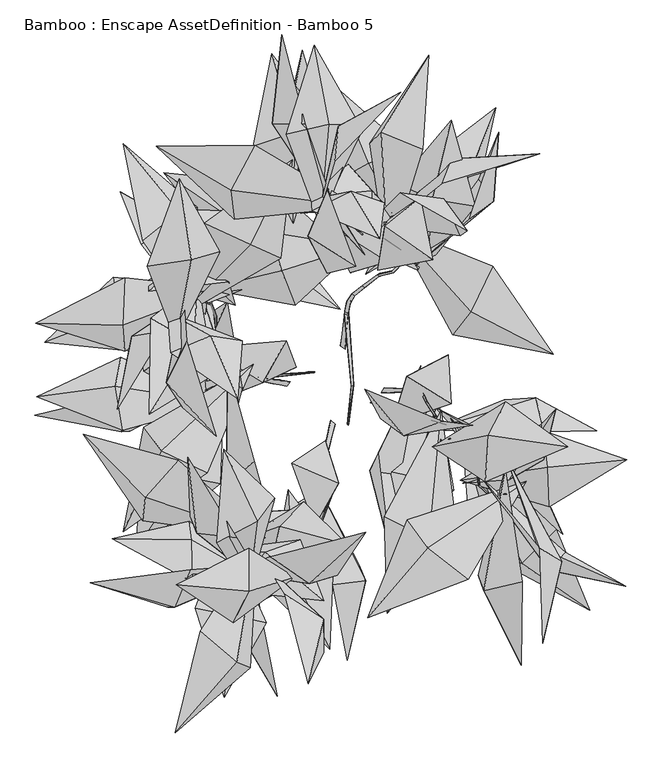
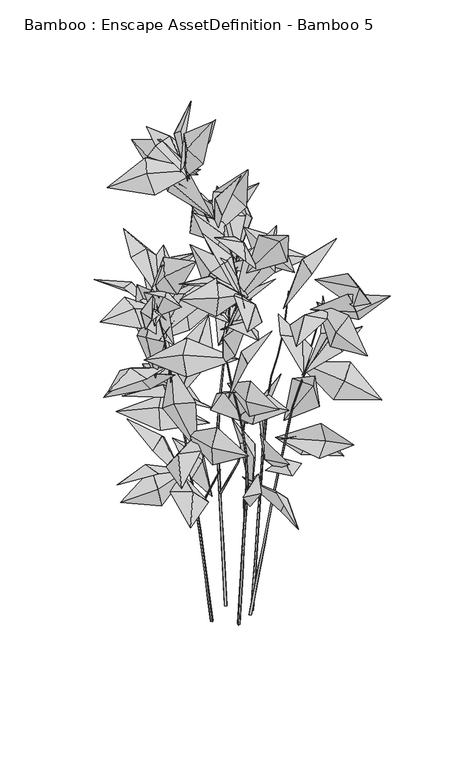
"""IFC4 building model written with IfcOpenShell, lengths in millimetres: geographic element geometry, Bamboo : Enscape AssetDefinition - Bamboo 5."""

from ifc_helpers import new_model, si_unit, origin, place, context, project, spatial, triangles, source, transform, mapped, element, save


def bamboo_enscape_assetdefinition_bamboo_5_6e08fe5f(model_context):
    return source(origin(), model_context, "Body", "Tessellation", [
        triangles([(266.7908193, -164.0697274, 1352.8652424), (265.652662, -163.7318846, 1353.1329586), (266.470381, -162.8979602, 1352.7905376), (0.9095346, 283.5432125, 1653.4577957), (0.749928, 282.3645598, 1653.7153381), (-0.1828052, 283.0290723, 1653.30359), (177.9235329, -75.2521972, 1383.7431541), (176.7161938, -75.2639925, 1383.8964878), (177.2859083, -74.221487, 1383.6319691), (-123.3851558, -289.9325572, 1639.8058674), (-123.1589978, -288.7381352, 1639.8661835), (-122.3020643, -289.4998983, 1639.4579235), (-242.5310719, 133.2183674, 1366.5162987), (-241.3386847, 133.0337947, 1366.6757366), (-242.0591349, 132.1091237, 1366.3485764), (-84.400962, 81.3364234, 699.0246288), (-212.0057912, 69.499714, 799.8626598), (-68.7226267, 38.8024144, 517.4644538), (-180.4961411, -8.7711835, 663.156542), (-121.5009776, 14.0428088, 705.6203745), (-312.2748708, -86.7501009, 698.4543875), (-324.3235903, -252.8266826, 648.7735537), (-182.0441753, 54.885517, 646.0732824), (-189.6951981, -147.0909581, 648.4611454), (-246.7223677, -135.8681239, 705.1403893), (71.8163922, -199.7884774, 1309.0647182), (76.5049687, -353.7326963, 1231.325568), (163.1109741, -30.0788031, 1263.6638557), (143.8283303, -235.2831676, 1294.4875557), (188.5152374, -225.9436941, 1228.0613777), (-347.1420012, -64.3380832, 707.4728777), (-342.2611582, -3.6783184, 755.3053505), (-171.5135136, 22.6691218, 681.6618078), (-484.9884928, -38.0339748, 682.9706669), (-334.0603506, -63.1798236, 632.1497137), (-334.4742788, 179.4281104, 858.1898409), (-311.8344907, 32.6620007, 801.5162653), (-209.5995609, -26.0298451, 662.3213459), (-252.3877195, 74.796352, 820.019351), (-215.7759645, 120.7445376, 774.6008297), (55.9018295, -121.8845207, 683.1431128), (157.5883098, -14.4642686, 578.7788435), (83.5167136, -267.135275, 738.1350323), (182.8959038, -157.2517569, 691.2253956), (118.9001462, -135.6121348, 720.6835539), (-357.2259061, 8.2681738, 775.7081749), (-482.2405864, -8.0397204, 739.0604845), (-345.2121408, -61.9388338, 771.743446), (-189.6489437, -18.6016682, 709.4351126), (-348.4491162, 54.6898122, 723.4238663), (-92.4540769, -240.5498883, 1145.9419716), (-55.0066624, -187.5860609, 963.3048637), (-156.8637719, -193.685525, 1139.9645021), (-237.1649932, -288.3409756, 1218.732514), (-210.9009895, -196.4521076, 1082.5351587), (-315.6626364, 235.0309483, 1021.7917007), (-253.0929636, 264.4129485, 976.6674202), (-213.2149471, 223.9419086, 918.1778217), (-349.2752286, 318.5102097, 872.2433435), (-195.4643772, 79.331068, 1059.5802372), (-15.0173008, -410.4838108, 1140.8854488), (-8.9834775, -255.3469684, 1113.7071659), (-81.2027015, -156.6123882, 980.4715485), (-110.8659618, -319.3623742, 1059.5202118), (-75.1428334, -289.5764925, 1116.6080063), (-350.6841542, 125.0731705, 1116.792152), (-191.6702229, 165.5226547, 1036.9736956), (-359.9774823, 182.2192191, 1074.937512), (-469.1592628, 78.2532904, 1084.2452288), (-321.6296413, 63.7951204, 1097.2753201), (-261.7888717, 171.3118544, 1188.3639462), (-202.3235697, 214.5267493, 1292.368063), (-260.6447918, 234.2591931, 1159.6395367), (-213.7088668, 123.2219572, 1181.4151697), (-232.0798203, 153.8901162, 1015.0115187), (313.2189629, -9.4957344, 669.9938427), (326.0953935, -63.6848664, 721.4768921), (144.1239972, -61.5823512, 748.8568342), (410.8921434, -62.2669569, 585.371755), (263.5402546, -13.0142549, 614.0215324), (297.7832226, -96.8209615, 784.9052153), (306.5736199, -114.8873188, 718.3559343), (153.8940585, -25.5153734, 733.3196285), (260.6600344, -147.5648845, 679.1209745), (356.3646578, -227.6763827, 752.5315372), (-283.905981, -94.2388335, 856.7791712), (-344.1050863, -223.6979373, 807.9638369), (-210.3257521, -129.4278012, 865.0889837), (-136.8857217, 43.4442641, 799.5777208), (-311.483749, -57.0018577, 790.3621496), (-128.3530303, -336.4400745, 1262.4225071), (-133.9860168, -184.6227243, 1162.8399954), (-150.2336533, -365.9246484, 1135.0814426), (-98.5900123, -486.0305077, 1220.0814869), (-167.7554036, -367.5933329, 1206.9085991), (-109.6211886, -282.9746607, 1296.6481796), (-161.8557455, -239.0287239, 1139.8823851), (-94.7034763, -214.6196215, 1305.0715027), (12.2204784, -243.260951, 1372.6541508), (-56.4382429, -175.5972214, 1261.9614887), (148.6669702, -87.7857935, 1326.8034611), (232.6075315, -143.5778187, 1480.8190601), (237.8195681, -69.8457094, 1497.8841522), (265.6179258, -16.3281662, 1453.4057625), (364.6337025, -88.3817056, 1553.2663822), (-154.5682724, 5.5688529, 972.097859), (-160.9278043, -18.2378017, 781.1861109), (-220.9892727, 47.9938365, 963.0170179), (-178.3817353, 142.8175544, 1065.5468061), (-231.0353165, 107.4442775, 912.9553934), (107.7208685, 24.028432, 871.3550257), (114.5483224, -5.6803361, 669.4726536), (84.5582198, -50.8649231, 855.7018387), (178.5707318, -19.687997, 992.6610661), (174.0403034, 58.3002114, 845.6115389), (-179.9465199, -149.6692437, 879.258831), (-92.8798049, -261.0102492, 881.5267159), (-134.9829399, -111.3054608, 928.3092527), (-177.4445469, 39.49996, 827.3839451), (-174.8721022, -147.8863584, 803.5790028), (-171.0306942, 167.1946456, 901.4663418), (2.1262292, 131.4758139, 809.9781034), (-147.8861676, 245.9071376, 901.1431784), (-122.7466592, 287.7621592, 836.4567198), (-289.4298808, 290.9724283, 874.0292084), (80.7152767, -250.527804, 779.370306), (62.0105363, -98.2252454, 802.7999805), (129.9182327, 41.3825077, 715.4529139), (48.965357, -126.4582786, 736.2972811), (97.387742, -133.1903895, 682.7331087), (-175.7530985, 174.8618375, 1330.6753178), (-303.7717379, 159.4722064, 1438.363512), (-166.0099069, 137.7039948, 1141.7539278), (-245.2108865, 209.7293495, 1314.1508904), (-304.3909952, 177.5713923, 1273.8562569), (-59.1091055, 236.2749131, 1199.8707293), (-67.9489638, 196.5141133, 1265.0047623), (-226.4867024, 134.4677098, 1189.1146997), (80.3281183, 212.9084069, 1200.7620266), (-62.8979731, 207.9153432, 1129.5873013), (-256.3543742, -109.8294607, 1355.784977), (-308.7049215, -168.3873054, 1336.4828121), (-117.6786183, -233.0222228, 1291.6948483), (-407.8970864, -68.4412212, 1288.1994221), (-313.0930621, -205.9476763, 1266.1017883), (-203.7580389, -273.380388, 1437.2890137), (-156.9223984, -211.8197742, 1449.5312897), (-140.1361501, -347.0652981, 1543.576276), (-157.0474816, -192.2771808, 1260.5202976), (-189.7543515, -332.0933195, 1388.9043217), (196.6155424, -68.255881, 998.4466867), (207.4462767, -209.5473657, 1089.0734224), (177.7428208, -42.6781499, 808.0508955), (251.4125065, -122.7781616, 979.6377331), (241.7558104, -182.311946, 929.257814), (164.6730336, -47.3985785, 1600.6892143), (40.5719512, 3.4355887, 1661.2804287), (213.077728, -53.8352314, 1439.0235008), (103.2492846, -70.7736279, 1577.7725899), (66.3281507, -43.5407244, 1526.5653957), (-313.3330547, 240.2111372, 1378.0106552), (-344.0879362, 394.6889174, 1331.8692856), (-254.4986554, 286.2655027, 1356.9526382), (-226.4318366, 293.7139034, 1285.9837143), (-218.65068, 102.9983007, 1290.3537964), (-345.0901643, 105.5643686, 1382.3159157), (-341.7730339, 181.0029779, 1385.4469746), (-483.6883904, 108.9749435, 1371.0965424), (-189.3138442, 164.6876402, 1284.8663406), (-341.5900146, 64.1484645, 1320.301823), (-38.613804, -213.8454319, 824.2666935), (-75.5469557, -114.634182, 951.6140076), (-33.0574004, -178.1645792, 637.6874571), (-0.7024818, -145.7949708, 832.4226637), (-22.1160215, -78.0120987, 801.8808506), (42.1512335, -301.8245094, 676.0108446), (-9.8834333, -307.5582255, 729.6382399), (-43.9805686, -132.0963429, 696.2442026), (13.2213223, -428.6017819, 630.0291309), (31.3972682, -275.1659077, 607.7918982), (-164.5822324, -318.0476289, 1581.1255829), (-118.1552698, -256.6620953, 1589.491206), (-196.2654366, -252.6976752, 1407.888628), (-24.8314308, -333.4664188, 1664.9451759), (-61.9651358, -236.1377666, 1541.8503639), (-277.6805616, 96.5360044, 1420.4753597), (-326.2089403, 61.7786373, 1313.3041397), (-354.0240303, -28.5073806, 1422.4375946), (-200.7790419, 175.4630363, 1293.4771523), (-330.4533033, 88.0611129, 1376.3677322), (-183.4262857, -219.8946992, 1432.6564476), (-229.6417969, -345.6948512, 1539.3707188), (-182.8786992, -487.1811642, 1548.3764191), (-160.5580231, -359.2142658, 1544.8456753), (-116.450223, -368.8477621, 1491.6848213), (-3.4079085, -143.385443, 686.3290375), (-53.5089477, -264.4658885, 793.8633894), (-169.3357395, -355.9482224, 788.0151272), (-63.644589, -303.5604681, 736.8573486), (-100.186908, -285.2759374, 681.2447548), (-221.5125147, -382.4736746, 1690.9412636), (-163.2481024, -431.8755283, 1662.6501125), (-130.4451809, -240.5124815, 1587.8917397), (-261.2627592, -544.277243, 1647.3120953), (-142.0949695, -440.5100667, 1585.4962463), (-109.68046, -263.248085, 1747.3081718), (-173.5480732, -286.8081113, 1567.9101105), (-47.4950161, -306.4504807, 1724.4956108), (42.7735111, -224.5300994, 1804.0172104), (-3.1837029, -293.2331188, 1661.5352097), (-262.4034418, -343.5839335, 1670.7095043), (-237.5940004, -284.306756, 1712.3678627), (-396.5940336, -304.9108217, 1689.7409008), (-98.6135665, -274.1104307, 1589.4567604), (-273.554905, -343.6156903, 1595.8889259), (-195.0686528, -241.1087932, 1726.4668568), (-184.1864137, -91.848845, 1771.5754406), (-144.1007337, -320.6572443, 1573.9898266), (-102.4993213, -170.1422492, 1667.1290543), (-129.5101635, -207.0265348, 1724.0733982), (-361.4421822, -234.662784, 1699.6738701), (-233.2292233, -304.4358871, 1702.7225212), (-108.9705651, -308.5514062, 1590.4074291), (-238.9444994, -206.5479485, 1629.7323544), (-234.669942, -236.4167467, 1690.9060913), (-91.1828246, 192.3421659, 1304.2574535), (-109.6482854, 253.8103071, 1276.9684216), (30.7851099, 230.7032328, 1315.5480434), (-212.171497, 164.0567194, 1176.6270899), (-70.0620889, 137.1524205, 1268.8453709), (-215.1097442, 268.3073692, 1393.0024727), (-140.9936741, 233.9061441, 1399.7593277), (-74.5896105, 369.378471, 1402.4859055), (-257.5243973, 117.3094548, 1270.6257854), (-92.9525567, 212.1983122, 1338.277034), (-231.6851496, 76.9069154, 1438.2568325), (-225.5959682, 175.601509, 1259.3931862), (-300.20931, 117.148082, 1428.8463604), (-199.6486785, 27.0898958, 1385.9111904), (-302.6753477, -35.9809955, 1500.7583954), (110.7068781, 384.0777918, 1150.6010622), (120.7863228, 225.8120343, 1080.6655781), (46.5784069, 363.5743195, 1174.4726429), (-5.0548457, 335.5091357, 1135.4177593), (-3.1502103, 483.2926297, 1152.5995594), (-163.0836684, -233.2972242, 1729.89688), (-226.6777154, -225.6530142, 1697.8344475), (-114.3242354, -315.1378864, 1584.5364212), (-241.3090171, -105.0264926, 1748.9579258), (-237.5950723, -199.0599426, 1633.1828705), (126.5235635, 358.1630945, 1093.4632708), (249.9378872, 452.6370154, 1017.2223576), (42.5420526, 186.8694258, 1038.0301718), (197.5096557, 322.8486803, 1073.0231667), (213.8721381, 286.5905555, 1002.6035551), (-306.0760122, 199.3676818, 1531.8062096), (-236.0989609, 210.3306573, 1539.9520786), (-260.5781535, 80.2393701, 1414.9094204), (-190.0134381, 223.0461057, 1488.2366306), (-254.9123474, 339.458931, 1553.7416439), (-204.930787, 89.1315508, 1565.4211636), (-273.1235178, 126.2432935, 1406.5940849), (-268.2199654, 61.3847888, 1561.4373951), (-154.5532661, 80.7239244, 1519.9624557), (-161.7754452, -11.4755566, 1630.5728554), (-242.5584503, 79.7829935, 1583.831377), (-195.6707781, -71.7289293, 1641.3540287), (-247.9992519, 149.4715995, 1403.2826591), (-275.718145, 14.0601985, 1553.041832), (-249.1660412, -26.2262585, 1490.7152584), (125.0930549, 193.5851315, 1343.0518879), (165.4870464, 274.4005292, 1227.6105331), (110.8601664, 272.4878916, 1068.5116688), (53.1887683, 225.207638, 1221.865971), (98.4965042, 270.9842952, 1245.1514683), (345.8075987, -219.3146656, 1107.1058973), (399.603879, -348.9756103, 1004.981971), (291.3371953, -273.9635828, 1079.0422033), (249.1220213, -267.8792158, 1010.0604401), (201.9395452, -84.2795305, 1079.6537939), (335.1577037, -183.8770939, 1136.1170626), (192.7397434, -141.7292305, 1059.2440659), (458.7259606, -108.7527732, 1154.1461946), (332.8142784, -120.7948071, 1163.7924809), (325.0702017, -62.4581335, 1129.5517656), (270.9851672, -140.2563281, 1207.7679216), (322.0863722, -52.5426232, 1132.1827097), (345.1240648, -28.3727049, 1277.3122959), (197.3254373, -146.0048689, 1050.8147112), (326.0390742, -108.6854354, 1174.8441319), (-108.3002481, 331.1008292, 790.3831512), (-156.5837018, 264.8528562, 793.5219858), (21.7885728, 213.3389584, 696.4178839), (-176.9967908, 217.9378238, 730.6808361), (-279.5213104, 349.078947, 769.2751373), (-85.0164586, 408.5203042, 813.0595287), (-6.4703894, 228.5934234, 785.586787), (-18.474548, 404.1183927, 852.7748371), (-58.6799984, 544.3916983, 777.683345), (-94.2774122, 391.5375109, 738.8692898), (-11.4119738, 380.1919098, 940.5175192), (-61.1385783, 284.5273457, 792.9295074), (35.9225462, 323.2754348, 954.4609268), (133.1505754, 411.0937663, 999.7946423), (84.9609205, 294.5673942, 906.4200365), (-86.465925, -323.5475839, 1868.8455208), (-24.7984886, -363.1913123, 1844.6112442), (-112.7182016, -281.3444005, 1688.2132324), (-49.0656688, -465.5794304, 1940.1184959), (-24.3080116, -415.6539894, 1789.2518326), (-144.0819667, -249.7635338, 1837.6323097), (-70.4344044, -296.0743516, 1691.454459), (-168.5200371, -368.9456849, 1813.1176723), (-143.9560841, -318.1151756, 1853.2277241), (-259.384876, -308.3525448, 1910.0568134), (-137.136424, 391.1328844, 987.6819368), (-72.8934159, 268.2691084, 884.5377966), (-69.7566342, 413.2007598, 994.4081251), (-107.679701, 538.6696275, 994.0209394), (-25.3963673, 426.936731, 941.5617868), (319.6545439, -249.6859586, 1516.3604954), (324.5430173, -401.0729753, 1477.0272858), (266.8657239, -106.3651918, 1421.8992554), (355.1944167, -270.2276371, 1454.7729755), (325.8398858, -275.2166131, 1387.9998711), (205.4608419, -299.2238687, 1391.6073544), (298.265279, -142.6656287, 1311.1712757), (140.9875062, -249.1541778, 1399.4503349), (108.4088716, -204.1095436, 1340.5282047), (45.6118961, -361.0261465, 1365.2742233), (291.6618484, -303.6018173, 1378.9212101), (290.5390972, -436.2222107, 1284.1377514), (230.7792819, -317.4451947, 1333.6885059), (221.7509813, -292.7742442, 1262.2044971), (264.7780425, -123.5037533, 1336.0585648), (319.2669585, -249.0939526, 1427.6090813), (228.977139, -139.8265578, 1325.9738605), (334.0633664, -284.6917615, 1366.9357498), (456.9722886, -310.5189823, 1408.5202755), (360.6379071, -256.3696349, 1307.4906864), (245.2141748, 199.6739131, 1413.7962616), (340.9460132, 59.6758542, 1390.7485405), (86.7934123, 263.1992689, 1316.5989967), (181.1190501, 90.4639004, 1346.7102402), (209.7032247, 126.952171, 1411.870071), (119.5341464, 272.3573945, 1490.1094814), (143.9918014, 235.7031456, 1304.6622253), (76.6847724, 206.5268015, 1491.4105648), (17.9428297, 189.5416101, 1443.6332485), (-17.1514025, 265.5400781, 1584.233242), (140.5437015, 201.4856667, 1339.8969933), (216.5605096, 295.4046614, 1468.9507439), (148.7823883, 306.612026, 1493.2278957), (93.5336077, 331.2326162, 1454.2214104), (178.9130619, 432.4744017, 1528.3404327), (207.1695312, 274.2745195, 1495.7704731), (246.1366839, 303.2228979, 1445.5678688), (222.3801762, 338.072206, 1390.9818111), (254.1954035, 413.3728786, 1511.2983044), (121.8563338, 200.4998257, 1369.3216507), (-11.535247, 299.6897196, 1732.1933968), (-67.2464495, 335.5172384, 1689.6241928), (41.1586432, 217.8274562, 1567.8173836), (-55.7029135, 375.7909793, 1624.0963612), (-51.889965, 457.5794463, 1766.1998966), (67.4695191, 413.1784138, 1470.4051609), (77.0879818, 204.2986854, 1450.8003983), (133.4456519, 385.9087483, 1511.2140072), (142.6913175, 536.0232774, 1423.9892441), (48.8190768, 396.1016945, 1393.2145237), (-172.9424598, 320.7544767, 1772.9763725), (31.3040781, 294.5353467, 1735.2839058), (-134.6049924, 392.1530983, 1785.2634132), (-291.9325805, 391.123728, 1712.5918316), (-167.2576687, 274.6324373, 1706.6741695), (-19.0401827, 320.6378414, 1890.8770248), (-15.4732584, 322.9560139, 1696.9567394), (-49.6854438, 247.179262, 1883.4346012), (-19.1975995, 188.4596086, 1840.3280754), (26.6347137, 199.9119073, 2000.0000153), (164.7095139, 332.1266024, 1558.9100784), (179.6659229, 370.9631853, 1492.6402863), (319.7768475, 378.82982, 1525.0285709), (40.7437567, 232.1559966, 1455.5203136), (197.7226878, 339.1232683, 1424.557378), (-7.2964955, 366.8659427, 1869.9653652), (-36.5341367, 266.9080542, 1726.1883854), (98.0891708, 477.1217491, 1895.861459), (-1.3433755, 422.7556272, 1823.1186607), (41.0622102, 424.6653216, 1764.6210686), (-54.1188578, 426.2928749, 1816.0212742), (2.9877239, 260.856425, 1744.2537071), (-90.9292154, 416.5443784, 1683.3726849), (-106.3413742, 426.6869642, 1758.1384701), (-91.1827791, 568.3382744, 1741.0595707), (129.285695, 309.4843071, 1594.5147366), (149.4315856, 210.1915124, 1719.1713718), (76.8020799, 274.8444157, 1421.2292381), (72.7330741, 263.0107448, 1614.868), (61.3092756, 193.5764292, 1588.7791855), (97.3978249, 316.8918855, 1602.7885048), (204.1745287, 256.225276, 1698.8665066), (48.310555, 267.7978799, 1437.8689201), (192.6757938, 248.1253707, 1545.9012794), (166.5668678, 307.5475067, 1578.9776035), (-84.2815925, 410.109088, 1808.7939537), (-39.6674052, 552.2256314, 1789.5569012), (31.9596521, 425.4369678, 1763.345129), (-29.8455325, 264.6772492, 1734.0060768), (-15.4104999, 426.3256854, 1815.1030163), (51.7247543, 319.8926107, 1608.8571751), (14.8699329, 362.0081723, 1567.6035885), (88.5496277, 280.3151755, 1439.7156097), (-45.6582278, 310.7058532, 1691.3517036), (54.0463377, 251.3814583, 1604.6801044), (19.2614515, 319.2119473, 1877.9051422), (-44.6623901, 306.2526366, 1713.1852547), (-42.6295518, 287.9942671, 1880.487252), (64.5833717, 243.3931559, 1970.0769871), (71.7586332, 301.05339, 1837.7889862), (-38.6047203, 31.7126719, 626.9001068), (-38.9069547, 30.9807966, 628.3878794), (-39.8573782, 30.1200865, 627.2941235), (-139.821698, 25.238687, 478.9625888), (-138.4066499, 19.1807151, 476.6088444), (-134.7101277, 24.4025235, 474.7895877), (-40.2463852, 31.9692627, 628.124814), (-15.8034731, -95.9819866, 567.7524453), (-31.8998266, -128.0892383, 510.9938458), (-25.3828734, -126.7097349, 508.9355776), (-17.3740746, -94.3039549, 567.7007406), (-17.8777741, -96.3199474, 568.6842925), (-30.6187729, -122.556173, 506.9498703), (-77.5958269, 15.6321717, 0.525135), (-83.4365041, 8.4958778, 4e-07), (-89.0571731, 17.3742143, 99.290124), (-94.5356268, 10.6804936, 98.7975306), (-86.6477907, 17.1404123, -0.5251336), (-97.5477704, 18.7889229, 98.3049734), (-100.5185193, 19.1162569, 198.0550803), (-116.7338812, 15.0497025, 296.3926462), (-108.4477409, 20.4374312, 197.1350965), (-105.6347495, 12.8651077, 197.5950611), (-111.9798655, 20.8583062, 296.8200547), (-119.3477115, 22.0859384, 295.9652013), (-127.7320471, 17.2175174, 395.2033482), (-130.1451811, 23.717375, 394.7952335), (-123.3417537, 22.5837619, 395.6114264), (-136.7517818, 24.6238218, 494.227282), (-142.9668094, 25.6595166, 493.2733432), (-140.7651906, 19.6977666, 493.7419556), (-154.8716878, 23.2044839, 592.1970652), (-151.1910894, 27.680353, 592.4334606), (-161.6997231, 33.2825388, 691.0307854), (-165.0422516, 29.2642521, 691.0631235), (-156.8655341, 28.6278606, 591.6989851), (-166.8266267, 34.1433851, 690.4885946), (-170.3564076, 45.472397, 789.1759575), (-174.9214633, 46.2388519, 788.6935015), (-173.3588406, 41.9323742, 789.5137276), (-184.3879276, 66.3580726, 885.2256907), (-180.4202374, 65.755652, 885.9678692), (-183.067623, 62.6802675, 886.4033804), (-197.3017832, 91.2182239, 980.5824429), (-195.0020689, 93.808164, 980.0233927), (-198.432946, 94.3788504, 979.5629557), (-198.1703712, 120.8277266, 1075.5315891), (-197.2199932, 118.1306528, 1076.1949207), (-204.7280015, 139.6326561, 1172.5516119), (-195.2899511, 120.2720283, 1075.6408848), (-220.598399, 145.7885849, 1270.3550171), (-203.9561917, 137.4438817, 1172.9948261), (-222.3323956, 146.0770393, 1270.0175377), (-202.4297587, 139.2465423, 1172.941123), (-221.6981502, 144.4043035, 1270.0755283), (-6.6078986, -51.883461, -2.3e-06), (-15.4348023, -54.5182884, -0.6779073), (-19.2048711, -71.4351564, 118.0650591), (-17.2609808, -63.0885229, 119.3367747), (-10.9253824, -68.963732, 118.7009123), (-15.242865, -86.0439849, 237.401861), (-13.3623895, -45.6198081, 0.6779029), (-22.9749353, -88.3520108, 236.8080201), (-21.1595733, -80.5572468, 237.9956838), (-19.5598004, -103.1219214, 356.1031549), (-26.7446316, -105.2672665, 355.5564949), (-30.6701982, -122.8518218, 474.109215), (-25.0574481, -98.0228867, 356.6498148), (-24.0355946, -120.8819293, 474.6919919), (-29.1171839, -116.1834879, 475.2753502), (-29.2840933, -141.87517, 592.7637094), (-33.9444488, -137.5572014, 593.2591006), (-41.2498077, -155.2234468, 711.5595469), (-35.3680015, -143.6685199, 592.1479403), (-42.5567501, -160.8132946, 710.7337252), (-37.024323, -159.1912824, 711.3644279), (-54.3357141, -169.7906899, 829.770282), (-55.5159382, -174.8305168, 829.0443089), (-50.5637696, -173.4059126, 829.9198368), (-76.5433203, -188.2571318, 946.129822), (-72.2075293, -187.0374207, 947.3016981), (-75.5372997, -183.79901, 947.0089108), (-106.7615521, -204.2053771, 1061.0137253), (-107.6252257, -208.1018689, 1060.160943), (-103.8770261, -207.0665397, 1061.3999662), (-137.9861905, -216.040247, 1176.0548138), (-158.3289441, -223.1601431, 1293.6627514), (-134.6975104, -215.1300918, 1176.870171), (-137.1149591, -212.651028, 1176.3059612), (-168.5984299, -246.8674896, 1410.2807785), (-161.1057368, -223.9309536, 1293.1034832), (-160.4434407, -221.1238757, 1293.6502522), (-156.592295, -275.0650599, 1525.9061337), (-157.8849305, -273.9307178, 1526.402179), (-170.8558139, -247.5559105, 1410.167704), (-170.3300647, -245.3079918, 1410.6707256), (-158.2673381, -275.6570477, 1526.1241436), (76.2432114, -1.9888978, -0.3024711), (71.5638913, 5.9690227, 3e-07), (78.1051254, 5.6964166, 99.6207815), (67.0267409, -2.0708085, 0.3024707), (73.8493577, -1.8448091, 99.9044852), (88.7452826, -1.5470598, 198.976572), (82.494247, -1.7679805, 99.3370507), (80.6719563, -1.6188028, 199.5064997), (84.6463504, 5.4238076, 199.2415631), (94.9963273, -1.3261392, 298.6161296), (91.1875844, 5.1512066, 298.8622992), (87.4945686, -1.3927964, 299.1085233), (97.7288004, 4.8786062, 398.4831262), (101.2473447, -1.1052185, 398.2556328), (94.3171808, -1.1668239, 398.7105469), (101.1398022, -0.9408176, 498.3125705), (104.2700526, 4.606006, 498.103935), (107.4983984, -0.8842979, 497.8952268), (107.9622691, -0.7148113, 597.912741), (110.8112776, 4.3333715, 597.7245984), (113.749534, -0.6634112, 597.5366012), (115.2755219, -0.4844651, 697.5400537), (117.8380744, 4.0651106, 697.3051844), (127.5310601, 3.3754111, 796.7184477), (120.4817084, -0.4382186, 697.0779453), (125.2396847, -0.6742017, 796.8211304), (129.8779645, -0.6339904, 796.4405577), (135.9388772, -5.0408981, 895.9406616), (133.8922362, -1.5356642, 896.365781), (139.8778537, -15.0429431, 995.2658489), (141.6153839, -18.012343, 994.5787542), (131.8644893, -5.0723625, 896.174659), (153.9130254, -37.3534522, 1091.6178165), (138.1206572, -18.0556078, 994.8851309), (152.4270151, -39.8475723, 1091.1833954), (155.3367757, -39.7868156, 1090.7997705), (158.8000454, -64.6804769, 1187.3874796), (157.6444473, -62.6733638, 1187.8553289), (163.1160065, -79.3195679, 1285.5920231), (156.4375988, -64.6471123, 1187.3753437), (162.2246365, -80.8717534, 1285.5880989), (164.0005274, -80.8589998, 1285.3647114), (10.4926678, 76.7896624, -0.5102923), (2.0699669, 73.0328241, 3.2e-06), (3.7500167, 86.2786635, 120.0625843), (11.6503699, 89.8025127, 119.5839253), (5.4300669, 99.5245211, 240.1251686), (10.7788138, 81.2359299, 120.5412251), (9.5634878, 67.6566988, 0.5102985), (12.8080709, 102.8153631, 239.6781574), (7.1093447, 112.7627664, 360.1886613), (13.9649997, 115.8206285, 359.7732433), (11.9941409, 94.8152064, 240.5721617), (13.2086959, 108.3868617, 360.6041156), (8.9169549, 127.835947, 480.0201914), (17.5667818, 139.9317839, 600.0371026), (14.5530157, 123.8080406, 480.5193615), (15.2488671, 130.6465767, 479.5251635), (18.2100701, 146.2288105, 599.300774), (12.402041, 143.6582825, 599.818584), (25.1037389, 152.6103433, 719.7711096), (25.6919161, 158.3466029, 719.1497086), (20.4251931, 156.0355702, 719.8962473), (36.5458548, 168.6683566, 839.1143337), (64.2731799, 183.7552082, 955.7413719), (60.5773662, 186.5475523, 956.1935972), (40.7384654, 165.5615149, 838.8150061), (41.2356098, 170.7048965, 838.0284262), (87.298287, 189.4868169, 1074.0149666), (64.7388627, 188.3470973, 955.1430799), (87.754173, 193.5319007, 1073.7218159), (98.2654409, 206.7001376, 1193.1194698), (101.1077456, 204.6492817, 1193.2751289), (84.0608846, 191.9395197, 1074.4148695), (101.4570158, 208.0891517, 1192.6800344), (95.6635467, 227.4646224, 1311.4602116), (98.0317979, 225.8243155, 1312.0245667), (98.3252938, 228.7012293, 1311.5195103), (72.6805927, 243.5182209, 1428.3151428), (74.5573087, 242.2193722, 1428.9262974), (36.5350519, 251.6951746, 1542.7859173), (36.3371329, 249.9369789, 1543.056831), (74.7214702, 244.5755147, 1428.8620571), (34.9709077, 250.9042345, 1542.4231487), (58.2558736, -20.3295958, -0.76341), (49.5332683, -17.7026122, 0.7634093), (56.2013388, -11.3567378, -5e-07), (71.7709144, -16.3912211, 97.6100213), (81.4994858, -26.9844675, 195.8887517), (87.3404901, -21.4257112, 195.2200426), (73.6980315, -24.8076132, 96.8939494), (65.516368, -22.3435467, 98.326075), (89.1401803, -29.2856352, 194.5513152), (97.4825854, -31.6254066, 293.4514194), (104.5823519, -33.7636413, 292.2086901), (102.9100611, -26.4601831, 292.8300729), (118.4796322, -31.494671, 390.4400851), (113.4656941, -36.2663274, 391.0141053), (129.3305142, -40.8716422, 488.6027344), (135.3472709, -42.6836955, 487.542443), (120.0245052, -38.2416656, 389.8660649), (133.9303788, -36.4933575, 488.0726068), (150.6880496, -41.8856792, 585.4570696), (146.5145035, -45.8742302, 586.013322), (165.4145762, -51.6660869, 682.9418896), (151.9658514, -47.516045, 584.9070305), (169.1934699, -48.0778521, 682.5360277), (184.8497453, -60.9890871, 779.5558325), (170.3325355, -53.1479414, 681.9732714), (180.4511948, -59.6593944, 780.2937962), (183.8540939, -56.4863686, 780.1836285), (192.5137216, -74.1328387, 877.3378), (196.3677741, -75.2938825, 876.6635679), (195.5301799, -71.3887748, 877.5031969), (209.0479413, -95.0932508, 972.7061794), (209.7107823, -98.3542255, 971.5946194), (206.4393069, -97.4260391, 972.4575754), (219.5036257, -126.2388607, 1065.8118336), (222.2796554, -127.1233634, 1065.4528439), (221.7124299, -124.355291, 1066.2488708), (223.6674159, -148.4779647, 1161.9325653), (239.6020537, -166.0958755, 1257.9175495), (241.2642706, -166.5968624, 1257.4818203), (221.9012083, -150.0401604, 1161.7820658), (224.1296515, -150.7382737, 1161.4227127), (240.886859, -164.8643736, 1257.7267181), (19.0874546, 8.2420046, 656.0877148), (8.3528343, 123.6100059, 450.9618997), (22.8371258, 6.2271663, 654.1358717), (12.9222343, -52.0221017, 879.4165976), (14.8306843, -53.4598092, 879.7912113), (14.936854, 126.0369925, 452.9255153), (14.3370689, 120.0460791, 448.8212963), (23.2351029, 10.4133485, 656.1966471), (15.0735939, -51.0592653, 879.9590063)], [[651, 647, 652], [646, 652, 648], [651, 652, 646], [650, 651, 646], [649, 651, 650], [644, 648, 647], [646, 648, 644], [644, 647, 651], [649, 644, 651], [645, 646, 644], [650, 646, 645], [645, 644, 649], [640, 1, 639], [639, 2, 643], [643, 3, 640], [642, 643, 640], [641, 640, 639], [642, 640, 641], [638, 639, 643], [641, 639, 638], [638, 643, 642], [636, 638, 642], [635, 642, 641], [636, 642, 635], [637, 641, 638], [635, 641, 637], [637, 638, 636], [633, 637, 636], [634, 636, 635], [633, 636, 634], [632, 635, 637], [634, 635, 632], [632, 637, 633], [630, 632, 633], [629, 633, 634], [630, 633, 629], [631, 634, 632], [629, 634, 631], [631, 632, 630], [625, 631, 630], [627, 630, 629], [625, 630, 627], [628, 629, 631], [627, 629, 628], [628, 631, 625], [626, 628, 625], [622, 625, 627], [626, 625, 622], [624, 627, 628], [622, 627, 624], [624, 628, 626], [623, 624, 626], [621, 626, 622], [623, 626, 621], [620, 622, 624], [621, 622, 620], [620, 624, 623], [617, 620, 623], [616, 623, 621], [617, 623, 616], [619, 621, 620], [616, 621, 619], [619, 620, 617], [618, 619, 617], [615, 617, 616], [618, 617, 615], [614, 616, 619], [615, 616, 614], [614, 619, 618], [612, 614, 618], [611, 618, 615], [612, 618, 611], [613, 615, 614], [611, 615, 613], [613, 614, 612], [610, 613, 612], [606, 612, 611], [610, 612, 606], [607, 611, 613], [606, 611, 607], [607, 613, 610], [608, 607, 610], [609, 610, 606], [608, 610, 609], [603, 608, 609], [602, 608, 603], [605, 606, 607], [609, 606, 605], [605, 607, 608], [602, 605, 608], [604, 609, 605], [603, 609, 604], [604, 605, 602], [598, 4, 599], [599, 5, 601], [601, 6, 598], [600, 601, 598], [597, 598, 599], [600, 598, 597], [596, 599, 601], [597, 599, 596], [596, 601, 600], [595, 596, 600], [594, 600, 597], [595, 600, 594], [593, 597, 596], [594, 597, 593], [593, 596, 595], [592, 593, 595], [590, 595, 594], [592, 595, 590], [589, 594, 593], [590, 594, 589], [589, 593, 592], [588, 589, 592], [586, 592, 590], [588, 592, 586], [591, 590, 589], [586, 590, 591], [591, 589, 588], [587, 591, 588], [582, 588, 586], [587, 588, 582], [583, 586, 591], [582, 586, 583], [583, 591, 587], [585, 583, 587], [584, 587, 582], [585, 587, 584], [581, 582, 583], [584, 582, 581], [581, 583, 585], [579, 581, 585], [578, 585, 584], [579, 585, 578], [580, 584, 581], [578, 584, 580], [580, 581, 579], [576, 580, 579], [573, 579, 578], [576, 579, 573], [577, 578, 580], [573, 578, 577], [577, 580, 576], [575, 577, 576], [574, 576, 573], [575, 576, 574], [572, 573, 577], [574, 573, 572], [572, 577, 575], [569, 572, 575], [571, 575, 574], [569, 575, 571], [568, 574, 572], [571, 574, 568], [568, 572, 569], [567, 568, 569], [570, 569, 571], [567, 569, 570], [564, 571, 568], [570, 571, 564], [564, 568, 567], [563, 564, 567], [565, 567, 570], [563, 567, 565], [566, 563, 565], [560, 563, 566], [562, 570, 564], [565, 570, 562], [562, 564, 563], [560, 562, 563], [561, 565, 562], [566, 565, 561], [561, 562, 560], [559, 7, 558], [558, 8, 556], [556, 9, 559], [554, 556, 559], [557, 559, 558], [554, 559, 557], [555, 558, 556], [557, 558, 555], [555, 556, 554], [553, 555, 554], [552, 554, 557], [553, 554, 552], [550, 557, 555], [552, 557, 550], [550, 555, 553], [548, 550, 553], [551, 553, 552], [548, 553, 551], [547, 552, 550], [551, 552, 547], [547, 550, 548], [545, 547, 548], [549, 548, 551], [545, 548, 549], [546, 551, 547], [549, 551, 546], [546, 547, 545], [544, 546, 545], [543, 545, 549], [544, 545, 543], [541, 549, 546], [543, 549, 541], [541, 546, 544], [542, 541, 544], [539, 544, 543], [542, 544, 539], [540, 543, 541], [539, 543, 540], [540, 541, 542], [538, 540, 542], [536, 542, 539], [538, 542, 536], [537, 539, 540], [536, 539, 537], [537, 540, 538], [535, 537, 538], [533, 538, 536], [535, 538, 533], [534, 536, 537], [533, 536, 534], [534, 537, 535], [531, 534, 535], [532, 535, 533], [531, 535, 532], [530, 533, 534], [532, 533, 530], [530, 534, 531], [527, 530, 531], [529, 531, 532], [527, 531, 529], [528, 532, 530], [529, 532, 528], [528, 530, 527], [523, 528, 527], [525, 527, 529], [523, 527, 525], [526, 529, 528], [525, 529, 526], [526, 528, 523], [524, 526, 523], [522, 523, 525], [524, 523, 522], [521, 524, 522], [518, 524, 521], [520, 525, 526], [522, 525, 520], [520, 526, 524], [518, 520, 524], [519, 522, 520], [521, 522, 519], [519, 520, 518], [517, 10, 514], [514, 11, 513], [513, 12, 517], [515, 513, 517], [516, 517, 514], [515, 517, 516], [510, 514, 513], [516, 514, 510], [510, 513, 515], [511, 510, 515], [512, 515, 516], [511, 515, 512], [507, 516, 510], [512, 516, 507], [507, 510, 511], [506, 507, 511], [509, 511, 512], [506, 511, 509], [508, 512, 507], [509, 512, 508], [508, 507, 506], [504, 508, 506], [503, 506, 509], [504, 506, 503], [505, 509, 508], [503, 509, 505], [505, 508, 504], [500, 505, 504], [502, 504, 503], [500, 504, 502], [501, 503, 505], [502, 503, 501], [501, 505, 500], [498, 501, 500], [497, 500, 502], [498, 500, 497], [499, 502, 501], [497, 502, 499], [499, 501, 498], [495, 499, 498], [493, 498, 497], [495, 498, 493], [496, 497, 499], [493, 497, 496], [496, 499, 495], [494, 496, 495], [492, 495, 493], [494, 495, 492], [491, 493, 496], [492, 493, 491], [491, 496, 494], [487, 491, 494], [490, 494, 492], [487, 494, 490], [489, 492, 491], [490, 492, 489], [489, 491, 487], [486, 489, 487], [488, 487, 490], [486, 487, 488], [485, 490, 489], [488, 490, 485], [485, 489, 486], [483, 485, 486], [484, 486, 488], [483, 486, 484], [481, 488, 485], [484, 488, 481], [481, 485, 483], [478, 481, 483], [479, 483, 484], [478, 483, 479], [482, 478, 479], [477, 478, 482], [480, 484, 481], [479, 484, 480], [480, 481, 478], [477, 480, 478], [476, 479, 480], [482, 479, 476], [476, 480, 477], [473, 13, 471], [471, 14, 475], [475, 15, 473], [469, 475, 473], [474, 473, 471], [469, 473, 474], [472, 471, 475], [474, 471, 472], [472, 475, 469], [467, 472, 469], [470, 469, 474], [467, 469, 470], [468, 474, 472], [470, 474, 468], [468, 472, 467], [466, 468, 467], [465, 467, 470], [466, 467, 465], [464, 470, 468], [465, 470, 464], [464, 468, 466], [461, 464, 466], [462, 466, 465], [461, 466, 462], [463, 465, 464], [462, 465, 463], [463, 464, 461], [459, 463, 461], [458, 461, 462], [459, 461, 458], [460, 462, 463], [458, 462, 460], [460, 463, 459], [457, 460, 459], [454, 459, 458], [457, 459, 454], [455, 458, 460], [454, 458, 455], [455, 460, 457], [456, 455, 457], [453, 457, 454], [456, 457, 453], [452, 454, 455], [453, 454, 452], [452, 455, 456], [450, 452, 456], [449, 456, 453], [450, 456, 449], [451, 453, 452], [449, 453, 451], [451, 452, 450], [447, 451, 450], [448, 450, 449], [447, 450, 448], [446, 449, 451], [448, 449, 446], [446, 451, 447], [445, 446, 447], [444, 447, 448], [445, 447, 444], [441, 448, 446], [444, 448, 441], [441, 446, 445], [442, 441, 445], [440, 445, 444], [442, 445, 440], [443, 444, 441], [440, 444, 443], [443, 441, 442], [439, 443, 442], [436, 442, 440], [439, 442, 436], [434, 439, 436], [438, 439, 434], [437, 440, 443], [436, 440, 437], [437, 443, 439], [438, 437, 439], [435, 436, 437], [434, 436, 435], [435, 437, 438], [433, 432, 431], [429, 432, 433], [429, 428, 432], [430, 431, 428], [433, 431, 430], [430, 428, 429], [424, 427, 426], [426, 421, 425], [426, 427, 421], [421, 427, 422], [425, 421, 423], [424, 423, 427], [425, 423, 424], [427, 423, 422], [423, 421, 422], [416, 419, 420], [417, 416, 420], [418, 419, 416], [418, 416, 417], [411, 414, 415], [413, 411, 415], [412, 414, 411], [412, 411, 413], [409, 408, 410], [410, 408, 407], [406, 409, 410], [406, 410, 407], [405, 402, 404], [403, 405, 404], [401, 402, 405], [401, 405, 403], [398, 400, 399], [399, 400, 397], [396, 398, 399], [396, 399, 397], [394, 395, 393], [392, 394, 393], [391, 395, 394], [391, 394, 392], [389, 388, 390], [387, 389, 390], [386, 388, 389], [386, 389, 387], [382, 383, 385], [384, 382, 385], [381, 383, 382], [381, 382, 384], [377, 379, 378], [378, 379, 380], [376, 377, 378], [376, 378, 380], [371, 374, 375], [372, 371, 375], [373, 374, 371], [373, 371, 372], [366, 369, 370], [367, 366, 370], [368, 369, 366], [368, 366, 367], [362, 365, 364], [363, 362, 364], [361, 365, 362], [361, 362, 363], [360, 358, 357], [357, 358, 359], [356, 360, 357], [356, 357, 359], [353, 355, 354], [351, 353, 354], [352, 355, 353], [352, 353, 351], [348, 350, 349], [347, 348, 349], [346, 350, 348], [346, 348, 347], [343, 344, 345], [345, 344, 342], [341, 343, 345], [341, 345, 342], [337, 340, 338], [338, 340, 339], [336, 337, 338], [336, 338, 339], [335, 334, 333], [333, 334, 332], [331, 335, 333], [331, 333, 332], [327, 329, 328], [328, 329, 330], [326, 327, 328], [326, 328, 330], [324, 322, 325], [323, 324, 325], [321, 322, 324], [321, 324, 323], [317, 320, 318], [318, 320, 319], [316, 317, 318], [316, 318, 319], [314, 315, 313], [312, 314, 313], [311, 315, 314], [311, 314, 312], [307, 309, 310], [308, 307, 310], [306, 309, 307], [306, 307, 308], [302, 305, 303], [303, 305, 304], [301, 302, 303], [301, 303, 304], [296, 299, 300], [297, 296, 300], [298, 299, 296], [298, 296, 297], [292, 295, 294], [293, 292, 294], [291, 295, 292], [291, 292, 293], [289, 287, 290], [290, 287, 288], [286, 289, 290], [286, 290, 288], [284, 283, 285], [282, 284, 285], [281, 283, 284], [281, 284, 282], [280, 279, 278], [278, 279, 277], [276, 280, 278], [276, 278, 277], [273, 274, 275], [275, 274, 271], [272, 273, 275], [272, 275, 271], [268, 270, 269], [269, 270, 267], [266, 268, 269], [266, 269, 267], [261, 265, 264], [262, 261, 264], [263, 265, 261], [263, 261, 262], [258, 259, 257], [257, 259, 260], [256, 258, 257], [256, 257, 260], [253, 255, 254], [254, 255, 252], [251, 253, 254], [251, 254, 252], [247, 249, 250], [248, 247, 250], [246, 249, 247], [246, 247, 248], [243, 245, 244], [242, 243, 244], [241, 245, 243], [241, 243, 242], [236, 240, 239], [237, 236, 239], [238, 240, 236], [238, 236, 237], [234, 235, 232], [232, 235, 233], [231, 234, 232], [231, 232, 233], [229, 230, 226], [226, 230, 228], [227, 229, 226], [227, 226, 228], [223, 224, 225], [225, 224, 221], [222, 223, 225], [222, 225, 221], [218, 219, 220], [220, 219, 217], [216, 218, 220], [216, 220, 217], [211, 213, 215], [214, 211, 215], [212, 213, 211], [212, 211, 214], [207, 210, 208], [208, 210, 209], [206, 207, 208], [206, 208, 209], [202, 204, 205], [203, 202, 205], [201, 204, 202], [201, 202, 203], [199, 198, 200], [196, 199, 200], [197, 198, 199], [197, 199, 196], [194, 193, 195], [191, 194, 195], [192, 193, 194], [192, 194, 191], [189, 187, 190], [190, 187, 188], [186, 189, 190], [186, 190, 188], [182, 184, 185], [183, 182, 185], [181, 184, 182], [181, 182, 183], [176, 179, 180], [178, 176, 180], [177, 179, 176], [177, 176, 178], [173, 175, 174], [174, 175, 172], [171, 173, 174], [171, 174, 172], [166, 168, 170], [169, 166, 170], [167, 168, 166], [167, 166, 169], [165, 164, 163], [163, 164, 162], [161, 165, 163], [161, 163, 162], [159, 157, 160], [158, 159, 160], [156, 157, 159], [156, 159, 158], [154, 152, 155], [153, 154, 155], [151, 152, 154], [151, 154, 153], [149, 150, 146], [146, 150, 148], [147, 149, 146], [147, 146, 148], [142, 144, 145], [143, 142, 145], [141, 144, 142], [141, 142, 143], [136, 139, 140], [138, 136, 140], [137, 139, 136], [137, 136, 138], [133, 135, 134], [134, 135, 132], [131, 133, 134], [131, 134, 132], [128, 130, 129], [129, 130, 126], [127, 128, 129], [127, 129, 126], [122, 124, 123], [123, 124, 125], [121, 122, 123], [121, 123, 125], [119, 120, 116], [116, 120, 117], [118, 119, 116], [118, 116, 117], [111, 114, 115], [112, 111, 115], [113, 114, 111], [113, 111, 112], [108, 109, 110], [107, 108, 110], [106, 109, 108], [106, 108, 107], [103, 105, 104], [101, 103, 104], [102, 105, 103], [102, 103, 101], [98, 99, 100], [97, 98, 100], [96, 99, 98], [96, 98, 97], [92, 93, 95], [95, 93, 94], [91, 92, 95], [91, 95, 94], [89, 90, 86], [86, 90, 87], [88, 89, 86], [88, 86, 87], [82, 85, 84], [83, 82, 84], [81, 85, 82], [81, 82, 83], [76, 79, 80], [78, 76, 80], [77, 79, 76], [77, 76, 78], [75, 74, 71], [71, 74, 72], [73, 75, 71], [73, 71, 72], [66, 69, 70], [67, 66, 70], [68, 69, 66], [68, 66, 67], [63, 64, 65], [65, 64, 61], [62, 63, 65], [62, 65, 61], [60, 58, 57], [57, 58, 59], [56, 60, 57], [56, 57, 59], [52, 55, 53], [53, 55, 54], [51, 52, 53], [51, 53, 54], [49, 50, 46], [46, 50, 47], [48, 49, 46], [48, 46, 47], [45, 43, 44], [42, 45, 44], [41, 43, 45], [41, 45, 42], [38, 40, 39], [39, 40, 36], [37, 38, 39], [37, 39, 36], [31, 34, 35], [33, 31, 35], [32, 34, 31], [32, 31, 33], [29, 27, 30], [28, 29, 30], [26, 27, 29], [26, 29, 28], [25, 22, 24], [23, 25, 24], [21, 22, 25], [21, 25, 23], [20, 17, 19], [18, 20, 19], [16, 17, 20], [16, 20, 18]], closed=False),
    ])


if __name__ == "__main__":
    model = new_model("IFC4")
    model_context = context("Model", 3, world=origin())
    ifc_project = project(units=[si_unit("LENGTHUNIT", "METRE", prefix="MILLI")], contexts=[model_context])
    site = spatial("IfcSite", under=ifc_project)
    building = spatial("IfcBuilding", under=site)
    placement = place(None, origin())
    bamboo_enscape_assetdefinition_bamboo_5_shape = bamboo_enscape_assetdefinition_bamboo_5_6e08fe5f(model_context)
    element("IfcGeographicElement", 1, ObjectType="Bamboo : Enscape AssetDefinition - Bamboo 5", at=placement, inside=building, context=model_context, shape_type="MappedRepresentation", body=[
        mapped(bamboo_enscape_assetdefinition_bamboo_5_shape, transform((0.0, 0.0, 0.0), x_axis=(1.0, 0.0, 0.0), y_axis=(0.0, 1.0, 0.0), z_axis=(0.0, 0.0, 1.0))),
    ])
    save(model, "model.ifc")
